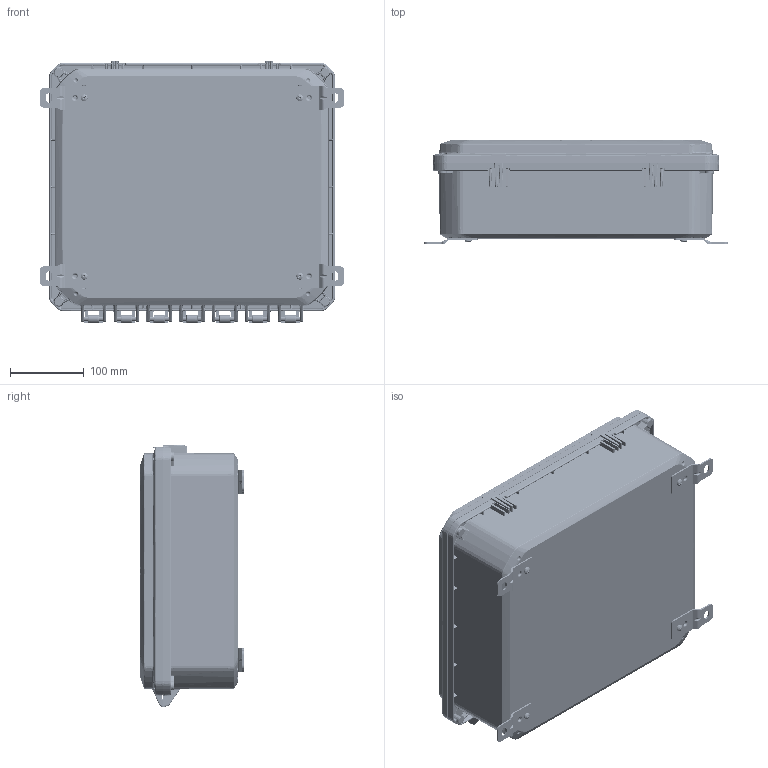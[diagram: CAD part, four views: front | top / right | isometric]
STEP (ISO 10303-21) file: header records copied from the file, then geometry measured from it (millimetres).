
FILE_DESCRIPTION (( 'STEP AP214' ), '1' );
FILE_NAME ('ZH-141204-43.STEP', '2024-10-25T19:34:55', ( '' ), ( '' ), 'SwSTEP 2.0', 'SolidWorks 2024', '' );
FILE_SCHEMA (( 'AUTOMOTIVE_DESIGN' ));
Length unit declared in the file: inch
Products named in the file (11): ZH-91F-01_ZH-91F-01; SCREWS-049_SCREWS-049; LABEL-104; ZH-141204-43; Z_-14121C_ZH-14121C-02; INSERTS-4; Z_-14124BI_ZH-14124BI-01; Z_-14121CG_ZH-14121CG-02; Z_-14124B_ZH-14124B-01; ZH-1412G; SCREWS-046_SCREWS-046
Assembly tree (30 placements, depth 3):
  ZH-141204-43
    Z_-14124BI_ZH-14124BI-01
      Z_-14124B_ZH-14124B-01
      INSERTS-4  x12
      LABEL-104
    Z_-14121CG_ZH-14121CG-02
      Z_-14121C_ZH-14121C-02
      ZH-1412G
    SCREWS-046_SCREWS-046  x4
    ZH-91F-01_ZH-91F-01  x4
    SCREWS-049_SCREWS-049  x4
Bounding box: 412.75 x 139.7 x 355.47 mm (x, y, z)
Volume: 2104928.9 mm3; surface area: 1007487.9 mm2
Topology: 28 solids, 28 shells, 7727 faces, 18993 edges, 11256 vertices
Faces by surface type: bspline 2267, cylinder 1786, plane 1682, cone 1200, torus 752, sphere 40
Entity records: 274760 total; most frequent: CARTESIAN_POINT 151961, ORIENTED_EDGE 28638, DIRECTION 22463, EDGE_CURVE 14319, AXIS2_PLACEMENT_3D 9214, VERTEX_POINT 8389, EDGE_LOOP 6226, FACE_OUTER_BOUND 6064
